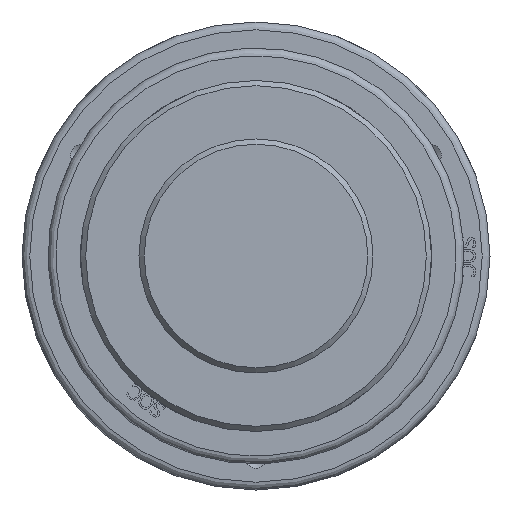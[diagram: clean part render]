
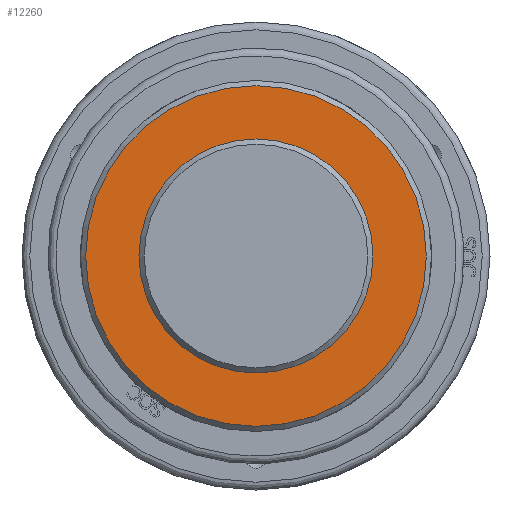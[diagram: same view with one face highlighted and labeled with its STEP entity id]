
A CAD part, front view. The second image highlights one B-rep face of the part: STEP entity #12260.
In plain terms, the highlighted planar face has unit normal (0, -1, 0) as drawn and (0, 1, 0) by its records, which use the part's own axes.
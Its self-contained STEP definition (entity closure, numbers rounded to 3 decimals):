
#90=CIRCLE('',#12879,65.5);
#92=CIRCLE('',#12883,41.753);
#173=FACE_BOUND('',#1583,.T.);
#379=PLANE('',#12882);
#828=FACE_OUTER_BOUND('',#1582,.T.);
#1582=EDGE_LOOP('',(#9614));
#1583=EDGE_LOOP('',(#9615));
#5362=VERTEX_POINT('',#18916);
#5376=VERTEX_POINT('',#19156);
#6893=EDGE_CURVE('',#5362,#5362,#90,.T.);
#6907=EDGE_CURVE('',#5376,#5376,#92,.T.);
#9614=ORIENTED_EDGE('',*,*,#6893,.F.);
#9615=ORIENTED_EDGE('',*,*,#6907,.T.);
#12260=ADVANCED_FACE('',(#828,#173),#379,.T.);
#12879=AXIS2_PLACEMENT_3D('',#18917,#13892,#13893);
#12882=AXIS2_PLACEMENT_3D('',#19155,#13898,#13899);
#12883=AXIS2_PLACEMENT_3D('',#19157,#13900,#13901);
#13892=DIRECTION('center_axis',(0.,-1.,0.));
#13893=DIRECTION('ref_axis',(1.,0.,0.));
#13898=DIRECTION('center_axis',(0.,1.,0.));
#13899=DIRECTION('ref_axis',(0.,0.,1.));
#13900=DIRECTION('center_axis',(0.,-1.,0.));
#13901=DIRECTION('ref_axis',(1.,0.,0.));
#18916=CARTESIAN_POINT('',(-65.5,45.,0.));
#18917=CARTESIAN_POINT('Origin',(0.,45.,0.));
#19155=CARTESIAN_POINT('Origin',(0.,45.,0.));
#19156=CARTESIAN_POINT('',(-41.753,45.,0.));
#19157=CARTESIAN_POINT('Origin',(0.,45.,0.));
